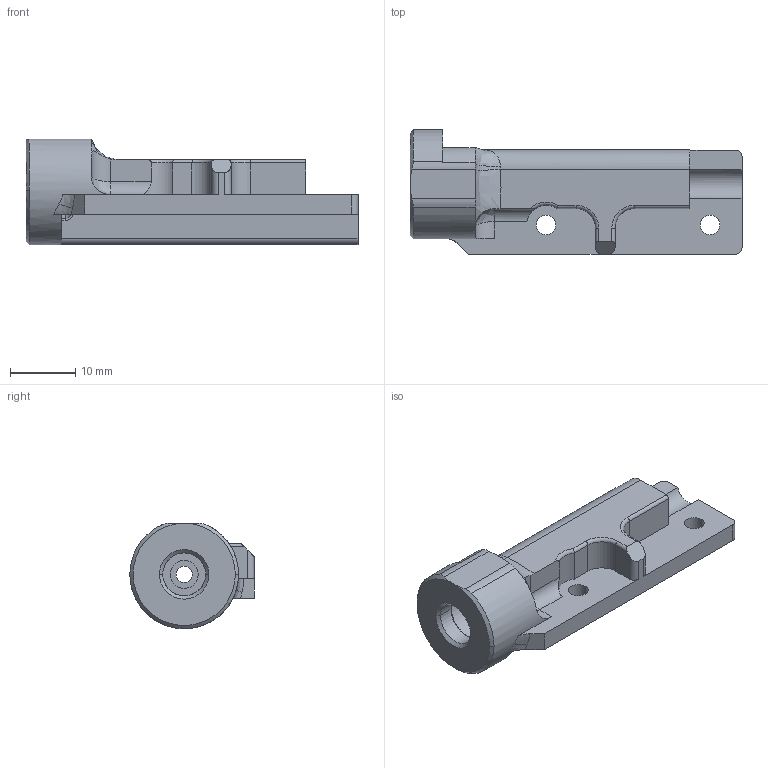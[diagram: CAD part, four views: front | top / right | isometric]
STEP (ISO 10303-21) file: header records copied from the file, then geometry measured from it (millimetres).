
FILE_DESCRIPTION((''),'2;1');
FILE_NAME('1_000_9990001_1_LLL','2024-10-21T08:50:14',('Administrator'),(''),'CREO PARAMETRIC BY PTC INC, 2024063','CREO PARAMETRIC BY PTC INC, 2024063','');
FILE_SCHEMA(('CONFIG_CONTROL_DESIGN'));
Length unit declared in the file: millimetre
Products named in the file (1): 1_000_9990001_1_LLL
Bounding box: 51 x 19.1 x 16.21 mm (x, y, z)
Volume: 5578.9 mm3; surface area: 3921.9 mm2
Topology: 1 solids, 1 shells, 90 faces, 269 edges, 182 vertices
Faces by surface type: cylinder 38, plane 28, bspline 9, cone 8, torus 7
Entity records: 3883 total; most frequent: CARTESIAN_POINT 1408, ORIENTED_EDGE 538, DIRECTION 500, EDGE_CURVE 269, AXIS2_PLACEMENT_3D 198, VERTEX_POINT 182, CIRCLE 117, VECTOR 104
